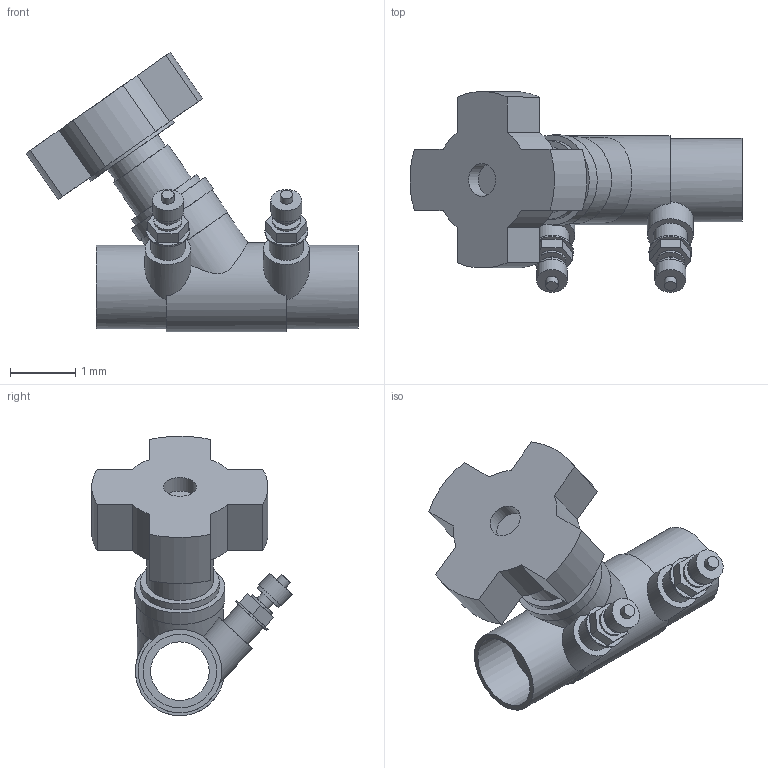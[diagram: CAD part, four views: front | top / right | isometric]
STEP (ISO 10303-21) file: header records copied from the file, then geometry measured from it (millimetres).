
FILE_DESCRIPTION(('Open CASCADE Model'),'2;1');
FILE_NAME('Open CASCADE Shape Model','2021-10-29T11:24:23',('Author'),( 'Open CASCADE'),'Open CASCADE STEP processor 7.3','Open CASCADE 7.3' ,'Unknown');
FILE_SCHEMA(('AUTOMOTIVE_DESIGN { 1 0 10303 214 1 1 1 1 }'));
Length unit declared in the file: millimetre
Products named in the file (1): Open CASCADE STEP translator 7.3 1
Bounding box: 5.1 x 3.08 x 4.29 mm (x, y, z)
Volume: 8.9 mm3; surface area: 59.8 mm2
Topology: 1 solids, 1 shells, 93 faces, 198 edges, 132 vertices
Faces by surface type: plane 54, cylinder 39
Full cylindrical faces by diameter (mm): 0.19 x2, 0.24 x2, 0.432 x2, 0.455 x2, 0.475 x2, 0.505 x1, 0.525 x2, 0.662 x2, 0.705 x1, 0.9 x1, 0.938 x1, 1.022 x1, 1.13 x2, 1.212 x1, 1.282 x2, 1.33 x1, 1.368 x1, 1.385 x1, 1.57 x1
Entity records: 6241 total; most frequent: CARTESIAN_POINT 2202, DIRECTION 749, ORIENTED_EDGE 396, PCURVE 396, DEFINITIONAL_REPRESENTATION 396, LINE 348, VECTOR 348, EDGE_CURVE 198
